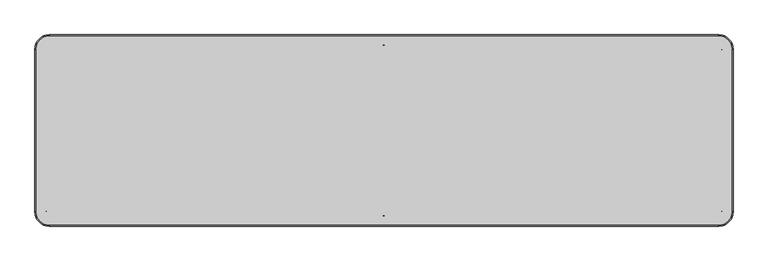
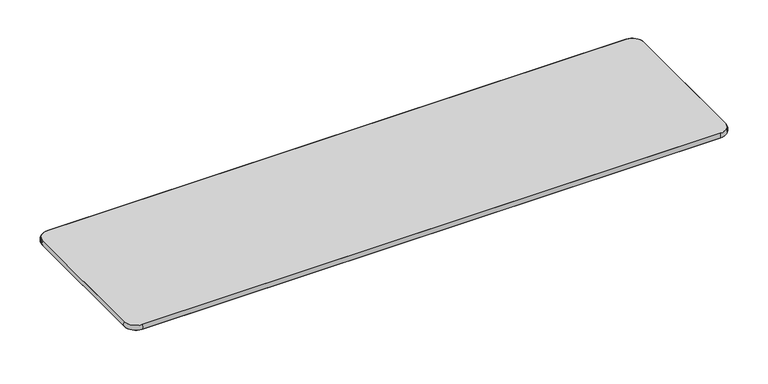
"""IFC4 building model written with IfcOpenShell, lengths in millimetres: furniture geometry, Mesa para refeitório : Mesa para refeitório 220x60cm cód 70472.6."""

import ifcopenshell
import ifcopenshell.guid

model = None  # the IFC model being written
_history = None  # IfcOwnerHistory: only IFC2X3 demands one
_inside = {}  # id of a spatial element -> (the spatial element, [elements in it])
_under = {}  # id of a project, library or spatial element -> (it, [spatial elements below it])
_declared = {}  # id of a project -> (the project, [libraries it declares])
_typed = {}  # id of a type object -> (the type object, [elements of that type])
_made_of = {}  # id of a material, layer set ... -> (it, [elements and type objects made of it])


def new_model(schema):
    """Start an empty IFC model of exactly this schema.

    Asked for "IFC4X3", IfcOpenShell would pick the latest addendum, in which some entities
    have other attributes; the version numbers below select the first issue.
    IFC2X3 requires an IfcOwnerHistory on every rooted entity: one is made here for all.
    """
    global model, _history
    if schema == "IFC4X3":
        model = ifcopenshell.file(schema_version=(4, 3, 0, 0))
    else:
        model = ifcopenshell.file(schema=schema)
    _inside.clear()
    _under.clear()
    _declared.clear()
    _typed.clear()
    _made_of.clear()
    _history = None
    if model.schema == "IFC2X3":
        org = make("IfcOrganization", Name="unknown")
        user = make(
            "IfcPersonAndOrganization",
            ThePerson=make("IfcPerson", FamilyName="unknown"),
            TheOrganization=org,
        )
        app = make(
            "IfcApplication",
            ApplicationDeveloper=org,
            Version="unknown",
            ApplicationFullName="unknown",
            ApplicationIdentifier="unknown",
        )
        _history = make(
            "IfcOwnerHistory",
            OwningUser=user,
            OwningApplication=app,
            ChangeAction="ADDED",
            CreationDate=0,
        )
    return model


def make(cls, **values):
    """One entity of the class cls with the attributes given. An attribute that is None is left unset."""
    return model.create_entity(
        cls, **{name: value for name, value in values.items() if value is not None}
    )


def rooted(cls, **values):
    """An entity with a GlobalId (a new one), such as an element, a storey or a relation."""
    return make(cls, GlobalId=ifcopenshell.guid.new(), OwnerHistory=_history, **values)


def si_unit(unit_type, name, prefix=None):
    """IfcSIUnit, for example si_unit("LENGTHUNIT", "METRE", prefix="MILLI")."""
    return make("IfcSIUnit", UnitType=unit_type, Prefix=prefix, Name=name)


def assignment(units):
    """IfcUnitAssignment: the units of a project."""
    return None if units is None else make("IfcUnitAssignment", Units=units)


def point(xyz):
    """IfcCartesianPoint."""
    return None if xyz is None else make("IfcCartesianPoint", Coordinates=xyz)


def direction(xyz):
    """IfcDirection."""
    return None if xyz is None else make("IfcDirection", DirectionRatios=xyz)


def frame(location, z_axis=None, x_axis=None):
    """IfcAxis2Placement3D, a coordinate frame: its origin and axes. An axis left out is left unset."""
    return make(
        "IfcAxis2Placement3D",
        Location=point(location),
        Axis=direction(z_axis),
        RefDirection=direction(x_axis),
    )


def frame_2d(location, x_axis=None):
    """IfcAxis2Placement2D, a coordinate frame in the plane: its origin and x axis."""
    return make(
        "IfcAxis2Placement2D", Location=point(location), RefDirection=direction(x_axis)
    )


def origin():
    """The frame at (0, 0, 0) with its axes left unset."""
    return frame((0.0, 0.0, 0.0))


def place(relative_to, where):
    """IfcLocalPlacement: puts the frame where relative to a parent placement (None: the world)."""
    return make(
        "IfcLocalPlacement", PlacementRelTo=relative_to, RelativePlacement=where
    )


def context(
    kind, dimensions, precision=None, world=None, true_north=None, identifier=None
):
    """IfcGeometricRepresentationContext, for example the 3D "Model" context."""
    return make(
        "IfcGeometricRepresentationContext",
        ContextIdentifier=identifier,
        ContextType=kind,
        CoordinateSpaceDimension=dimensions,
        Precision=precision,
        WorldCoordinateSystem=world,
        TrueNorth=true_north,
    )


def project(units=None, contexts=None):
    """IfcProject with its units and contexts."""
    return rooted(
        "IfcProject",
        Name="project",
        RepresentationContexts=contexts,
        UnitsInContext=assignment(units),
    )


def spatial(cls, under=None, at=None, **own):
    """A site, building, storey or space (cls), placed at a placement, below another one or the project."""
    s = rooted(cls, ObjectPlacement=at, **own)
    if under is not None:
        _under.setdefault(under.id(), (under, []))[1].append(s)
    return s


def polyline(points):
    """IfcPolyline through the points."""
    return make("IfcPolyline", Points=[point(p) for p in points])


def circle_curve(where, radius):
    """IfcCircle in the frame where."""
    return make("IfcCircle", Position=where, Radius=radius)


def ellipse_curve(where, semi_axis1, semi_axis2):
    """IfcEllipse in the frame where."""
    return make(
        "IfcEllipse", Position=where, SemiAxis1=semi_axis1, SemiAxis2=semi_axis2
    )


def trimmed(basis, trim1, trim2, sense, master):
    """IfcTrimmedCurve: the piece of a basis curve between two trims."""
    return make(
        "IfcTrimmedCurve",
        BasisCurve=basis,
        Trim1=trim1,
        Trim2=trim2,
        SenseAgreement=sense,
        MasterRepresentation=master,
    )


def segment(curve, same_sense, transition):
    """IfcCompositeCurveSegment."""
    return make(
        "IfcCompositeCurveSegment",
        Transition=transition,
        SameSense=same_sense,
        ParentCurve=curve,
    )


def composite_curve(segments, self_intersect=None):
    """IfcCompositeCurve: segments joined end to end."""
    return make("IfcCompositeCurve", Segments=segments, SelfIntersect=self_intersect)


def outline(outer, holes=None, kind="AREA"):
    """IfcArbitraryClosedProfileDef: a profile drawn as a closed curve; with holes, ...WithVoids."""
    if holes is None:
        return make("IfcArbitraryClosedProfileDef", ProfileType=kind, OuterCurve=outer)
    return make(
        "IfcArbitraryProfileDefWithVoids",
        ProfileType=kind,
        OuterCurve=outer,
        InnerCurves=holes,
    )


def extrude(swept, where, along, depth):
    """IfcExtrudedAreaSolid: the profile swept, set in the frame where, extruded along a direction by depth."""
    return make(
        "IfcExtrudedAreaSolid",
        SweptArea=swept,
        Position=where,
        ExtrudedDirection=direction(along),
        Depth=depth,
    )


def shape(context_of_items, identifier, shape_type, items):
    """IfcShapeRepresentation: the items that make up one representation, for example the "Body"."""
    return make(
        "IfcShapeRepresentation",
        ContextOfItems=context_of_items,
        RepresentationIdentifier=identifier,
        RepresentationType=shape_type,
        Items=items,
    )


def source(mapping_origin, context_of_items, identifier, shape_type, items):
    """IfcRepresentationMap: a shape defined once, which mapped items show again and again."""
    return make(
        "IfcRepresentationMap",
        MappingOrigin=mapping_origin,
        MappedRepresentation=shape(context_of_items, identifier, shape_type, items),
    )


def transform(
    local_origin,
    x_axis=None,
    y_axis=None,
    z_axis=None,
    scale=None,
    scale2=None,
    scale3=None,
    uniform=True,
):
    """IfcCartesianTransformationOperator3D, or its non-uniform kind. x_axis, y_axis, z_axis: its Axis1, 2, 3."""
    if uniform:
        return make(
            "IfcCartesianTransformationOperator3D",
            Axis1=direction(x_axis),
            Axis2=direction(y_axis),
            LocalOrigin=point(local_origin),
            Scale=scale,
            Axis3=direction(z_axis),
        )
    return make(
        "IfcCartesianTransformationOperator3DnonUniform",
        Axis1=direction(x_axis),
        Axis2=direction(y_axis),
        LocalOrigin=point(local_origin),
        Scale=scale,
        Axis3=direction(z_axis),
        Scale2=scale2,
        Scale3=scale3,
    )


def mapped(mapping_source, mapping_target):
    """IfcMappedItem: shows the shape of a source again, moved by a transform."""
    return make(
        "IfcMappedItem", MappingSource=mapping_source, MappingTarget=mapping_target
    )


def made_of(thing, what):
    """Note that an element or type object is made of a material, layer set ...; save() writes the relation."""
    if what is not None:
        _made_of.setdefault(what.id(), (what, []))[1].append(thing)
    return thing


def element(
    cls,
    number,
    at=None,
    inside=None,
    cuts=None,
    type_object=None,
    material=None,
    context=None,
    identifier="Body",
    shape_type=None,
    held_by="IfcProductDefinitionShape",
    body=None,
    shapes=None,
    **own,
):
    """One element of the class cls, such as IfcWall. Its Tag is "e" and its number.

    at: its placement. inside: the storey or other place that contains it. cuts: it is an
    opening in that element (IfcRelVoidsElement). A single representation is given by context,
    identifier, shape_type and body (its items); several are given by shapes. held_by: the class
    of the entity that holds the representations. save() writes the other relations.
    """
    e = rooted(cls, Tag="e%d" % number, ObjectPlacement=at, **own)
    if body is not None:
        shapes = [shape(context, identifier, shape_type, body)]
    if shapes is not None:
        e.Representation = make(held_by, Representations=shapes)
    if inside is not None:
        _inside.setdefault(inside.id(), (inside, []))[1].append(e)
    if cuts is not None:
        rooted(
            "IfcRelVoidsElement", RelatingBuildingElement=cuts, RelatedOpeningElement=e
        )
    if type_object is not None:
        _typed.setdefault(type_object.id(), (type_object, []))[1].append(e)
    return made_of(e, material)


def aggregate(whole, parts):
    """IfcRelAggregates: a whole, such as a stair, and the parts it consists of."""
    return rooted("IfcRelAggregates", RelatingObject=whole, RelatedObjects=parts)


def save(model, path):
    """Write the relations noted so far, then the file.

    IfcRelAggregates (storeys below a building ...), IfcRelContainedInSpatialStructure (elements
    in a storey), IfcRelDefinesByType, IfcRelAssociatesMaterial and IfcRelDeclares: one each for
    every whole, place, type object, material and project.
    """
    for whole, parts in _under.values():
        aggregate(whole, parts)
    for where, things in _inside.values():
        rooted(
            "IfcRelContainedInSpatialStructure",
            RelatedElements=things,
            RelatingStructure=where,
        )
    for kind, things in _typed.values():
        rooted("IfcRelDefinesByType", RelatedObjects=things, RelatingType=kind)
    for what, things in _made_of.values():
        rooted("IfcRelAssociatesMaterial", RelatedObjects=things, RelatingMaterial=what)
    for by, libraries in _declared.values():
        rooted("IfcRelDeclares", RelatingContext=by, RelatedDefinitions=libraries)
    model.write(path)


def plane_surface(at):
    """IfcPlane: the flat surface through the origin of the frame at, square to its z axis."""
    return make("IfcPlane", Position=at)


def cylinder_surface(at, radius):
    """IfcCylindricalSurface: all points at the distance radius from the z axis of the frame at."""
    return make("IfcCylindricalSurface", Position=at, Radius=radius)


def revolved_surface(curve, axis_point, axis_direction):
    """IfcSurfaceOfRevolution: the curve turned about the line through axis_point along axis_direction."""
    return make(
        "IfcSurfaceOfRevolution",
        SweptCurve=make("IfcArbitraryOpenProfileDef", ProfileType="CURVE", Curve=curve),
        AxisPosition=make("IfcAxis1Placement", Location=point(axis_point), Axis=direction(axis_direction)),
    )


def advanced_brep(points, edges, surfaces, faces):
    """IfcAdvancedBrep: a solid bounded by faces that lie on surfaces and meet in shared edges.

    An edge is (start, end): straight between two places in points (the first is 0);
    or (start, end, curve); or (start, end, curve, False) where it runs against its curve.
    A face is (place in surfaces, loops), or (place, loops, False) where it looks against
    its surface's normal. A loop lists edges by number (the first is 1), with a minus sign
    where the edge is run from its end to its start. The first loop is the outer one.
    """
    corners = [point(p) for p in points]
    vertices = [make("IfcVertexPoint", VertexGeometry=c) for c in corners]
    made = []
    for start, end, *more in edges:
        made.append(
            make(
                "IfcEdgeCurve",
                EdgeStart=vertices[start],
                EdgeEnd=vertices[end],
                EdgeGeometry=more[0] if more else make("IfcPolyline", Points=[corners[start], corners[end]]),
                SameSense=more[1] if len(more) > 1 else True,
            )
        )
    hull = []
    for where, loops, *sense in faces:
        bounds = []
        for j, loop in enumerate(loops):
            ring = [make("IfcOrientedEdge", EdgeElement=made[abs(k) - 1], Orientation=k > 0) for k in loop]
            bounds.append(
                make(
                    "IfcFaceOuterBound" if j == 0 else "IfcFaceBound",
                    Bound=make("IfcEdgeLoop", EdgeList=ring),
                    Orientation=True,
                )
            )
        hull.append(make("IfcAdvancedFace", Bounds=bounds, FaceSurface=surfaces[where], SameSense=sense[0] if sense else True))
    return make("IfcAdvancedBrep", Outer=make("IfcClosedShell", CfsFaces=hull))


def furniture_42522983(model_context):
    return source(origin(), model_context, "Body", "SolidModel", [
        extrude(outline(composite_curve([segment(polyline([(-1005.6618953, 42.5875081), (-1024.3872851, 42.5875081), (-1082.9451635, 246.803099)]), True, "CONTINUOUS"), segment(trimmed(circle_curve(frame_2d((-1078.138855, 248.1812858)), 5.0), [point((-1082.9451635, 246.803099))], [point((-1079.5170418, 252.9875943))], False, "CARTESIAN"), True, "CONTINUOUS"), segment(polyline([(-1079.5170418, 252.9875943), (-1067.0206397, 256.5708799), (-1005.6618953, 42.5875081)]), True, "CONTINUOUS")], self_intersect=False)), frame((0.0, 0.0, 740.0), z_axis=(0.0, 0.0, 1.0), x_axis=(1.0, 0.0, 0.0)), (0.0, 0.0, 1.0), 2.0),
        extrude(outline(composite_curve([segment(polyline([(-1005.6618953, -42.5875081), (-1067.0206397, -256.5708799), (-1079.5170418, -252.9875943)]), True, "CONTINUOUS"), segment(trimmed(circle_curve(frame_2d((-1078.138855, -248.1812858)), 5.0), [point((-1079.5170418, -252.9875943))], [point((-1082.9451635, -246.803099))], False, "CARTESIAN"), True, "CONTINUOUS"), segment(polyline([(-1082.9451635, -246.803099), (-1024.3872851, -42.5875081), (-1005.6618953, -42.5875081)]), True, "CONTINUOUS")], self_intersect=False)), frame((0.0, 0.0, 740.0), z_axis=(0.0, 0.0, 1.0), x_axis=(1.0, 0.0, 0.0)), (0.0, 0.0, 1.0), 2.0),
        extrude(outline(composite_curve([segment(polyline([(1005.6618953, 42.5875081), (1067.0206397, 256.5708799), (1079.5170418, 252.9875943)]), True, "CONTINUOUS"), segment(trimmed(circle_curve(frame_2d((1078.138855, 248.1812858)), 5.0), [point((1079.5170418, 252.9875943))], [point((1082.9451635, 246.803099))], False, "CARTESIAN"), True, "CONTINUOUS"), segment(polyline([(1082.9451635, 246.803099), (1024.3872851, 42.5875081), (1005.6618953, 42.5875081)]), True, "CONTINUOUS")], self_intersect=False)), frame((0.0, 0.0, 740.0), z_axis=(0.0, 0.0, 1.0), x_axis=(1.0, 0.0, 0.0)), (0.0, 0.0, 1.0), 2.0),
        extrude(outline(composite_curve([segment(polyline([(1005.6618953, -42.5875081), (1024.3872851, -42.5875081), (1082.9451635, -246.803099)]), True, "CONTINUOUS"), segment(trimmed(circle_curve(frame_2d((1078.138855, -248.1812858)), 5.0), [point((1082.9451635, -246.803099))], [point((1079.5170418, -252.9875943))], False, "CARTESIAN"), True, "CONTINUOUS"), segment(polyline([(1079.5170418, -252.9875943), (1067.0206397, -256.5708799), (1005.6618953, -42.5875081)]), True, "CONTINUOUS")], self_intersect=False)), frame((0.0, 0.0, 740.0), z_axis=(0.0, 0.0, 1.0), x_axis=(1.0, 0.0, 0.0)), (0.0, 0.0, 1.0), 2.0),
        extrude(outline(composite_curve([segment(polyline([(1005.6618953, -42.5875081), (1023.7270534, -42.5875081), (1023.7270534, -140.8530223)]), True, "CONTINUOUS"), segment(trimmed(circle_curve(frame_2d((1018.7270534, -140.8530223)), 5.0), [point((1023.7270534, -140.8530223))], [point((1018.7270534, -145.8530223))], False, "CARTESIAN"), True, "CONTINUOUS"), segment(polyline([(1018.7270534, -145.8530223), (1005.6618953, -145.8530223), (1005.6618953, -42.5875081)]), True, "CONTINUOUS")], self_intersect=False)), frame((0.0, 0.0, 740.0), z_axis=(0.0, 0.0, 1.0), x_axis=(1.0, 0.0, 0.0)), (0.0, 0.0, 1.0), 2.0),
        extrude(outline(polyline([(-999.6955742, 28.681337), (-999.6955742, -28.681337), (-1001.5529394, -28.1300623), (-1001.5529394, 28.1300623), (-999.6955742, 28.681337)])), frame((0.0, 0.0, 682.0), z_axis=(0.0, 0.0, 1.0), x_axis=(1.0, 0.0, 0.0)), (0.0, 0.0, 1.0), 60.0),
        extrude(outline(composite_curve([segment(polyline([(-60.1181829, 0.0), (0.0, 0.0), (0.0, -229.4943371)]), True, "CONTINUOUS"), segment(trimmed(circle_curve(frame_2d((-8.0489664, -229.4943371)), 8.0489664), [point((0.0, -229.4943371))], [point((-15.3438074, -232.8959773))], False, "CARTESIAN"), True, "CONTINUOUS"), segment(polyline([(-15.3438074, -232.8959773), (-60.1181829, 0.0)]), True, "CONTINUOUS")], self_intersect=False)), frame((-999.6955742, -28.681337, 742.0), z_axis=(-0.961261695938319, 0.2756373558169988, 0.0), x_axis=(0.0, 0.0, 1.0)), (0.0, 0.0, 1.0), 1.932216),
        extrude(outline(composite_curve([segment(polyline([(60.1181829, 0.0), (15.3438074, -232.8959773)]), True, "CONTINUOUS"), segment(trimmed(circle_curve(frame_2d((8.0489664, -229.4943371)), 8.0489664), [point((15.3438074, -232.8959773))], [point((0.0, -229.4943371))], False, "CARTESIAN"), True, "CONTINUOUS"), segment(polyline([(0.0, -229.4943371), (0.0, 0.0), (60.1181829, 0.0)]), True, "CONTINUOUS")], self_intersect=False)), frame((1001.5162894, 28.1300623, 742.0), z_axis=(-0.961261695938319, 0.2756373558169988, 0.0), x_axis=(0.0, 0.0, -1.0)), (0.0, 0.0, 1.0), 2.0),
        extrude(outline(polyline([(999.593766, 28.681337), (1001.5162894, 28.1300623), (1001.5162894, -28.1300623), (999.593766, -28.681337), (999.593766, 28.681337)])), frame((0.0, 0.0, 682.0), z_axis=(0.0, 0.0, 1.0), x_axis=(1.0, 0.0, 0.0)), (0.0, 0.0, 1.0), 60.0),
        extrude(outline(composite_curve([segment(polyline([(-2.0, -20.0), (-2.0, -266.247878), (-15.0, -266.247878)]), True, "CONTINUOUS"), segment(trimmed(circle_curve(frame_2d((-15.0, -261.247878)), 5.0), [point((-15.0, -266.247878))], [point((-20.0, -261.247878))], False, "CARTESIAN"), True, "CONTINUOUS"), segment(polyline([(-20.0, -261.247878), (-20.0, -20.0), (-2.0, -20.0)]), True, "CONTINUOUS")], self_intersect=False)), frame((0.0, 0.0, 740.0), z_axis=(0.0, 0.0, 1.0), x_axis=(1.0, 0.0, 0.0)), (0.0, 0.0, 1.0), 2.0),
        extrude(outline(composite_curve([segment(polyline([(-20.0, 683.2373612), (-266.247878, 726.6561926)]), True, "CONTINUOUS"), segment(trimmed(circle_curve(frame_2d((-262.8462378, 733.9510336)), 8.0489664), [point((-266.247878, 726.6561926))], [point((-262.8462378, 742.0))], False, "CARTESIAN"), True, "CONTINUOUS"), segment(polyline([(-262.8462378, 742.0), (-20.0, 742.0), (-20.0, 683.2373612)]), True, "CONTINUOUS")], self_intersect=False)), frame((-2.0, 0.0, 0.0), z_axis=(1.0, 0.0, 0.0), x_axis=(0.0, 1.0, 0.0)), (0.0, 0.0, 1.0), 2.0),
        extrude(outline(composite_curve([segment(polyline([(0.0, 0.0), (237.1608757, 0.0)]), True, "CONTINUOUS"), segment(trimmed(circle_curve(frame_2d((235.1976245, -7.8058636)), 8.0489664), [point((237.1608757, 0.0))], [point((236.7172151, -15.7100843))], False, "CARTESIAN"), True, "CONTINUOUS"), segment(polyline([(236.7172151, -15.7100843), (11.3499079, -59.0370689), (0.0, 0.0)]), True, "CONTINUOUS")], self_intersect=False)), frame((999.593766, -28.681337, 681.8818171), z_axis=(0.9612616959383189, 0.27563735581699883, 0.0), x_axis=(0.2706805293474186, -0.943975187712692, 0.1887932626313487)), (0.0, 0.0, 1.0), 2.0),
        extrude(outline(composite_curve([segment(polyline([(-2.0, 20.0), (-20.0, 20.0), (-20.0, 261.247878)]), True, "CONTINUOUS"), segment(trimmed(circle_curve(frame_2d((-15.0, 261.247878)), 5.0), [point((-20.0, 261.247878))], [point((-15.0, 266.247878))], False, "CARTESIAN"), True, "CONTINUOUS"), segment(polyline([(-15.0, 266.247878), (-2.0, 266.247878), (-2.0, 20.0)]), True, "CONTINUOUS")], self_intersect=False)), frame((0.0, 0.0, 740.0), z_axis=(0.0, 0.0, 1.0), x_axis=(1.0, 0.0, 0.0)), (0.0, 0.0, 1.0), 2.0),
        extrude(outline(composite_curve([segment(polyline([(20.0, 683.2373612), (20.0, 742.0), (262.8462378, 742.0)]), True, "CONTINUOUS"), segment(trimmed(circle_curve(frame_2d((262.8462378, 733.9510336)), 8.0489664), [point((262.8462378, 742.0))], [point((266.247878, 726.6561926))], False, "CARTESIAN"), True, "CONTINUOUS"), segment(polyline([(266.247878, 726.6561926), (20.0, 683.2373612)]), True, "CONTINUOUS")], self_intersect=False)), frame((-2.0, 0.0, 0.0), z_axis=(1.0, 0.0, 0.0), x_axis=(0.0, 1.0, 0.0)), (0.0, 0.0, 1.0), 2.0),
        extrude(outline(polyline([(1000.0651581, -20.0), (-1000.0651581, -20.0), (-1000.0651581, 20.0), (1000.0651581, 20.0), (1000.0651581, -20.0)])), frame((0.0, 0.0, 682.0), z_axis=(0.0, 0.0, 1.0), x_axis=(1.0, 0.0, 0.0)), (0.0, 0.0, 1.0), 60.0),
        advanced_brep(
        [(1100.0, -258.1259063, 760.0), (1058.1259063, -300.0, 760.0), (1058.1259063, -300.0, 742.0), (1100.0, -258.1259063, 742.0), (1100.0, 258.1259063, 742.0), (1100.0, 258.1259063, 760.0), (1058.1259063, 300.0, 760.0), (1058.1259063, 300.0, 742.0), (-1058.2277145, 300.0, 742.0), (-1058.2277145, 300.0, 760.0), (-1100.0, 258.2277145, 760.0), (-1100.0, 258.2277145, 742.0), (-1100.0, -258.2277145, 742.0), (-1100.0, -258.2277145, 760.0), (-1058.2277145, -300.0, 760.0), (-1058.2277145, -300.0, 742.0)],
        [
            (0, 1, circle_curve(frame((1058.1259063, -258.1259063, 760.0), z_axis=(0.0, 0.0, -1.0), x_axis=(0.0, -1.0, 0.0)), 41.8740937)),
            (1, 2, circle_curve(frame((1058.1259063, -286.6032084, 751.0), z_axis=(1.0, 0.0, 0.0), x_axis=(0.0, 1.0, 0.0)), 16.1392077)),
            (2, 3, circle_curve(frame((1058.1259063, -258.1259063, 742.0), z_axis=(0.0, 0.0, 1.0), x_axis=(0.0, -1.0, 0.0)), 41.8740937)),
            (3, 0, circle_curve(frame((1086.6032084, -258.1259063, 751.0), z_axis=(0.0, -1.0, 0.0), x_axis=(-1.0, 0.0, 0.0)), 16.1392077)),
            (2, 1),
            (0, 3),
            (3, 4),
            (4, 5, circle_curve(frame((1086.6032084, 258.1259063, 751.0), z_axis=(0.0, -1.0, 0.0), x_axis=(-1.0, 0.0, 0.0)), 16.1392077)),
            (5, 0),
            (5, 4),
            (6, 5, circle_curve(frame((1058.1259063, 258.1259063, 760.0), z_axis=(0.0, 0.0, -1.0), x_axis=(1.0, 0.0, 0.0)), 41.8740937)),
            (4, 7, circle_curve(frame((1058.1259063, 258.1259063, 742.0), z_axis=(0.0, 0.0, 1.0), x_axis=(1.0, 0.0, 0.0)), 41.8740937)),
            (7, 6, circle_curve(frame((1058.1259063, 286.6032084, 751.0), z_axis=(1.0, 0.0, 0.0), x_axis=(0.0, -1.0, 0.0)), 16.1392077)),
            (6, 7),
            (7, 8),
            (8, 9, circle_curve(frame((-1058.2277145, 286.6032084, 751.0), z_axis=(1.0, 0.0, 0.0), x_axis=(0.0, -1.0, 0.0)), 16.1392077)),
            (9, 6),
            (9, 8),
            (10, 9, circle_curve(frame((-1058.2277145, 258.2277145, 760.0), z_axis=(0.0, 0.0, -1.0), x_axis=(0.0, 1.0, 0.0)), 41.7722855)),
            (8, 11, circle_curve(frame((-1058.2277145, 258.2277145, 742.0), z_axis=(0.0, 0.0, 1.0), x_axis=(0.0, 1.0, 0.0)), 41.7722855)),
            (11, 10, circle_curve(frame((-1086.6032084, 258.2277145, 751.0), z_axis=(0.0, 1.0, 0.0), x_axis=(1.0, 0.0, 0.0)), 16.1392077)),
            (10, 11),
            (11, 12),
            (12, 13, circle_curve(frame((-1086.6032084, -258.2277145, 751.0), z_axis=(0.0, 1.0, 0.0), x_axis=(1.0, 0.0, 0.0)), 16.1392077)),
            (13, 10),
            (13, 12),
            (14, 13, circle_curve(frame((-1058.2277145, -258.2277145, 760.0), z_axis=(0.0, 0.0, -1.0), x_axis=(-1.0, 0.0, 0.0)), 41.7722855)),
            (12, 15, circle_curve(frame((-1058.2277145, -258.2277145, 742.0), z_axis=(0.0, 0.0, 1.0), x_axis=(-1.0, 0.0, 0.0)), 41.7722855)),
            (15, 14, circle_curve(frame((-1058.2277145, -286.6032084, 751.0), z_axis=(-1.0, 0.0, 0.0), x_axis=(0.0, 1.0, 0.0)), 16.1392077)),
            (14, 15),
            (15, 2),
            (1, 14),
        ],
        [
            revolved_surface(trimmed(ellipse_curve(frame((1058.1259063, -286.6032084, 751.0), z_axis=(-1.0, 0.0, 0.0), x_axis=(0.0, 1.0, 0.0)), 16.1392077, 16.1392077), [point((1058.1259063, -300.0, 742.0))], [point((1058.1259063, -300.0, 760.0))], True, "CARTESIAN"), (1058.1259063, -258.1259063, 760.0), (0.0, 0.0, 1.0)),
            revolved_surface(polyline([(1058.1259063, -300.0, 760.0), (1058.1259063, -300.0, 742.0)]), (1058.1259063, -258.1259063, 760.0), (0.0, 0.0, 1.0)),
            cylinder_surface(frame((1086.6032084, -258.1259063, 751.0), z_axis=(0.0, -1.0, 0.0), x_axis=(-1.0, 0.0, 0.0)), 16.1392077),
            plane_surface(frame((1100.0, -258.1259063, 760.0), z_axis=(-1.0, 0.0, 0.0), x_axis=(0.0, 1.0, 0.0))),
            revolved_surface(trimmed(ellipse_curve(frame((1086.6032084, 258.1259063, 751.0), z_axis=(0.0, -1.0, 0.0), x_axis=(-1.0, 0.0, 0.0)), 16.1392077, 16.1392077), [point((1100.0, 258.1259063, 742.0))], [point((1100.0, 258.1259063, 760.0))], True, "CARTESIAN"), (1058.1259063, 258.1259063, 760.0), (0.0, 0.0, 1.0)),
            revolved_surface(polyline([(1100.0, 258.1259063, 760.0), (1100.0, 258.1259063, 742.0)]), (1058.1259063, 258.1259063, 760.0), (0.0, 0.0, 1.0)),
            cylinder_surface(frame((1058.1259063, 286.6032084, 751.0), z_axis=(1.0, 0.0, 0.0), x_axis=(0.0, -1.0, 0.0)), 16.1392077),
            plane_surface(frame((1058.1259063, 300.0, 760.0), z_axis=(0.0, -1.0, 0.0), x_axis=(-1.0, 0.0, 0.0))),
            revolved_surface(trimmed(ellipse_curve(frame((-1058.2277145, 286.6032084, 751.0), z_axis=(1.0, 0.0, 0.0), x_axis=(0.0, -1.0, 0.0)), 16.1392077, 16.1392077), [point((-1058.2277145, 300.0, 742.0))], [point((-1058.2277145, 300.0, 760.0))], True, "CARTESIAN"), (-1058.2277145, 258.2277145, 760.0), (0.0, 0.0, 1.0)),
            revolved_surface(polyline([(-1058.2277145, 300.0, 760.0), (-1058.2277145, 300.0, 742.0)]), (-1058.2277145, 258.2277145, 760.0), (0.0, 0.0, 1.0)),
            cylinder_surface(frame((-1086.6032084, 258.2277145, 751.0), z_axis=(0.0, 1.0, 0.0), x_axis=(1.0, 0.0, 0.0)), 16.1392077),
            plane_surface(frame((-1100.0, 258.2277145, 760.0), z_axis=(1.0, 0.0, 0.0), x_axis=(0.0, -1.0, 0.0))),
            revolved_surface(trimmed(ellipse_curve(frame((-1086.6032084, -258.2277145, 751.0), z_axis=(0.0, 1.0, 0.0), x_axis=(1.0, 0.0, 0.0)), 16.1392077, 16.1392077), [point((-1100.0, -258.2277145, 742.0))], [point((-1100.0, -258.2277145, 760.0))], True, "CARTESIAN"), (-1058.2277145, -258.2277145, 760.0), (0.0, 0.0, 1.0)),
            revolved_surface(polyline([(-1100.0, -258.2277145, 760.0), (-1100.0, -258.2277145, 742.0)]), (-1058.2277145, -258.2277145, 760.0), (0.0, 0.0, 1.0)),
            cylinder_surface(frame((-1058.2277145, -286.6032084, 751.0), z_axis=(-1.0, 0.0, 0.0), x_axis=(0.0, 1.0, 0.0)), 16.1392077),
            plane_surface(frame((-1058.2277145, -300.0, 760.0), z_axis=(0.0, 1.0, 0.0), x_axis=(1.0, 0.0, 0.0))),
        ],
        [
            (0, [[1, 2, 3, 4]]),
            (1, [[-3, 5, -1, 6]]),
            (2, [[-4, 7, 8, 9]]),
            (3, [[-6, -9, 10, -7]]),
            (4, [[11, -8, 12, 13]]),
            (5, [[-12, -10, -11, 14]]),
            (6, [[-13, 15, 16, 17]]),
            (7, [[-14, -17, 18, -15]]),
            (8, [[19, -16, 20, 21]]),
            (9, [[-20, -18, -19, 22]]),
            (10, [[-21, 23, 24, 25]]),
            (11, [[-22, -25, 26, -23]]),
            (12, [[27, -24, 28, 29]]),
            (13, [[-28, -26, -27, 30]]),
            (14, [[-29, 31, -2, 32]]),
            (15, [[-30, -32, -5, -31]]),
        ],
    ),
        extrude(outline(composite_curve([segment(trimmed(circle_curve(frame_2d((1058.1259063, 258.1259063)), 41.8740937), [point((1058.1259063, 300.0))], [point((1100.0, 258.1259063))], False, "CARTESIAN"), True, "CONTINUOUS"), segment(polyline([(1100.0, 258.1259063), (1100.0, -258.1259063)]), True, "CONTINUOUS"), segment(trimmed(circle_curve(frame_2d((1058.1259063, -258.1259063)), 41.8740937), [point((1100.0, -258.1259063))], [point((1058.1259063, -300.0))], False, "CARTESIAN"), True, "CONTINUOUS"), segment(polyline([(1058.1259063, -300.0), (-1058.2277145, -300.0)]), True, "CONTINUOUS"), segment(trimmed(circle_curve(frame_2d((-1058.2277145, -258.2277145)), 41.7722855), [point((-1058.2277145, -300.0))], [point((-1100.0, -258.2277145))], False, "CARTESIAN"), True, "CONTINUOUS"), segment(polyline([(-1100.0, -258.2277145), (-1100.0, 258.2277145)]), True, "CONTINUOUS"), segment(trimmed(circle_curve(frame_2d((-1058.2277145, 258.2277145)), 41.7722855), [point((-1100.0, 258.2277145))], [point((-1058.2277145, 300.0))], False, "CARTESIAN"), True, "CONTINUOUS"), segment(polyline([(-1058.2277145, 300.0), (1058.1259063, 300.0)]), True, "CONTINUOUS")], self_intersect=False)), frame((0.0, 0.0, 742.0), z_axis=(0.0, 0.0, 1.0), x_axis=(1.0, 0.0, 0.0)), (0.0, 0.0, 1.0), 18.0),
    ])


if __name__ == "__main__":
    model = new_model("IFC4")
    model_context = context("Model", 3, world=origin())
    ifc_project = project(units=[si_unit("LENGTHUNIT", "METRE", prefix="MILLI")], contexts=[model_context])
    site = spatial("IfcSite", under=ifc_project)
    building = spatial("IfcBuilding", under=site)
    placement = place(None, origin())
    furniture_shape = furniture_42522983(model_context)
    element("IfcFurniture", 1, ObjectType="Mesa para refeitório : Mesa para refeitório 220x60cm cód 70472.6", at=placement, inside=building, context=model_context, shape_type="MappedRepresentation", body=[
        mapped(furniture_shape, transform((0.0, 0.0, 0.0), x_axis=(1.0, 0.0, 0.0), y_axis=(0.0, 1.0, 0.0), z_axis=(0.0, 0.0, 1.0))),
    ])
    save(model, "model.ifc")
